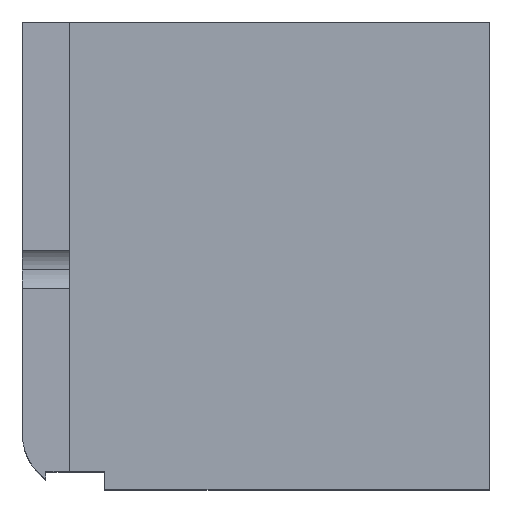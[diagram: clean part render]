
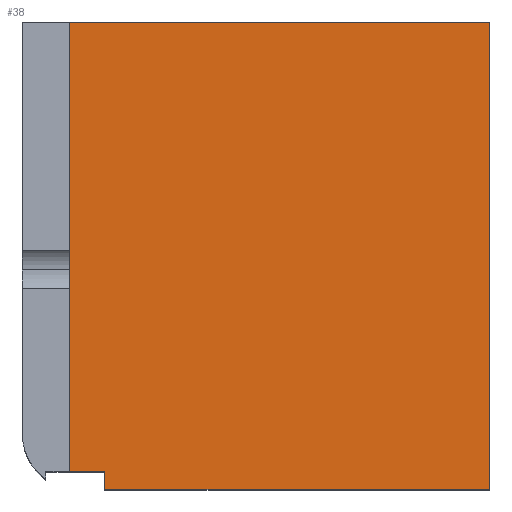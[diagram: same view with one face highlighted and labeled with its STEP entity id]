
A CAD part, top view. The second image highlights one B-rep face of the part: STEP entity #38.
In plain terms, the highlighted planar face has unit normal (0, 0, 1).
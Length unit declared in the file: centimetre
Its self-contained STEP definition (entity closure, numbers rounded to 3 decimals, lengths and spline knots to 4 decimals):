
#13 = AXIS2_PLACEMENT_3D ( 'NONE', #1232, #228, #212 ) ;
#25 = ORIENTED_EDGE ( 'NONE', *, *, #235, .T. ) ;
#37 = LINE ( 'NONE', #606, #402 ) ;
#38 = ADVANCED_FACE ( 'NONE', ( #1156 ), #169, .T. ) ;
#118 = CARTESIAN_POINT ( 'NONE',  ( 100.6552, 1000., 1000. ) ) ;
#120 = VECTOR ( 'NONE', #641, 100. ) ;
#169 = PLANE ( 'NONE',  #13 ) ;
#187 = CARTESIAN_POINT ( 'NONE',  ( 1000., 1000., 1000. ) ) ;
#189 = VERTEX_POINT ( 'NONE', #1345 ) ;
#212 = DIRECTION ( 'NONE',  ( 1., 0., 0. ) ) ;
#228 = DIRECTION ( 'NONE',  ( 0., 0., 1. ) ) ;
#235 = EDGE_CURVE ( 'NONE', #413, #1242, #37, .T. ) ;
#341 = EDGE_LOOP ( 'NONE', ( #744, #1203, #1425, #25, #1421, #471 ) ) ;
#401 = CARTESIAN_POINT ( 'NONE',  ( 0., 0., 1000. ) ) ;
#402 = VECTOR ( 'NONE', #915, 100. ) ;
#413 = VERTEX_POINT ( 'NONE', #187 ) ;
#417 = EDGE_CURVE ( 'NONE', #898, #845, #847, .T. ) ;
#419 = CARTESIAN_POINT ( 'NONE',  ( 100.6552, 0., 1000. ) ) ;
#451 = LINE ( 'NONE', #1009, #497 ) ;
#471 = ORIENTED_EDGE ( 'NONE', *, *, #1214, .T. ) ;
#487 = EDGE_CURVE ( 'NONE', #686, #413, #451, .T. ) ;
#497 = VECTOR ( 'NONE', #1115, 100. ) ;
#539 = DIRECTION ( 'NONE',  ( 1., 0., 0. ) ) ;
#606 = CARTESIAN_POINT ( 'NONE',  ( 0., 1000., 1000. ) ) ;
#641 = DIRECTION ( 'NONE',  ( 1., 0., 0. ) ) ;
#650 = CARTESIAN_POINT ( 'NONE',  ( 50.0903, 38.2368, 1000. ) ) ;
#686 = VERTEX_POINT ( 'NONE', #1035 ) ;
#744 = ORIENTED_EDGE ( 'NONE', *, *, #417, .T. ) ;
#747 = LINE ( 'NONE', #401, #120 ) ;
#758 = LINE ( 'NONE', #650, #923 ) ;
#766 = VECTOR ( 'NONE', #1287, 100. ) ;
#811 = VECTOR ( 'NONE', #1410, 100. ) ;
#845 = VERTEX_POINT ( 'NONE', #1177 ) ;
#847 = LINE ( 'NONE', #1206, #766 ) ;
#866 = CARTESIAN_POINT ( 'NONE',  ( 176.3267, 38.2368, 1000. ) ) ;
#898 = VERTEX_POINT ( 'NONE', #866 ) ;
#915 = DIRECTION ( 'NONE',  ( -1., 0., 0. ) ) ;
#918 = EDGE_CURVE ( 'NONE', #189, #1242, #1179, .T. ) ;
#923 = VECTOR ( 'NONE', #539, 100. ) ;
#1009 = CARTESIAN_POINT ( 'NONE',  ( 1000., 1000., 1000. ) ) ;
#1035 = CARTESIAN_POINT ( 'NONE',  ( 1000., 0., 1000. ) ) ;
#1115 = DIRECTION ( 'NONE',  ( 0., 1., 0. ) ) ;
#1121 = EDGE_CURVE ( 'NONE', #845, #686, #747, .T. ) ;
#1156 = FACE_OUTER_BOUND ( 'NONE', #341, .T. ) ;
#1177 = CARTESIAN_POINT ( 'NONE',  ( 176.3267, 0., 1000. ) ) ;
#1179 = LINE ( 'NONE', #419, #811 ) ;
#1203 = ORIENTED_EDGE ( 'NONE', *, *, #1121, .T. ) ;
#1206 = CARTESIAN_POINT ( 'NONE',  ( 176.3267, 0., 1000. ) ) ;
#1214 = EDGE_CURVE ( 'NONE', #189, #898, #758, .T. ) ;
#1232 = CARTESIAN_POINT ( 'NONE',  ( 0., 0., 1000. ) ) ;
#1242 = VERTEX_POINT ( 'NONE', #118 ) ;
#1287 = DIRECTION ( 'NONE',  ( 0., -1., 0. ) ) ;
#1345 = CARTESIAN_POINT ( 'NONE',  ( 100.6552, 38.2368, 1000. ) ) ;
#1410 = DIRECTION ( 'NONE',  ( 0., 1., 0. ) ) ;
#1421 = ORIENTED_EDGE ( 'NONE', *, *, #918, .F. ) ;
#1425 = ORIENTED_EDGE ( 'NONE', *, *, #487, .T. ) ;
